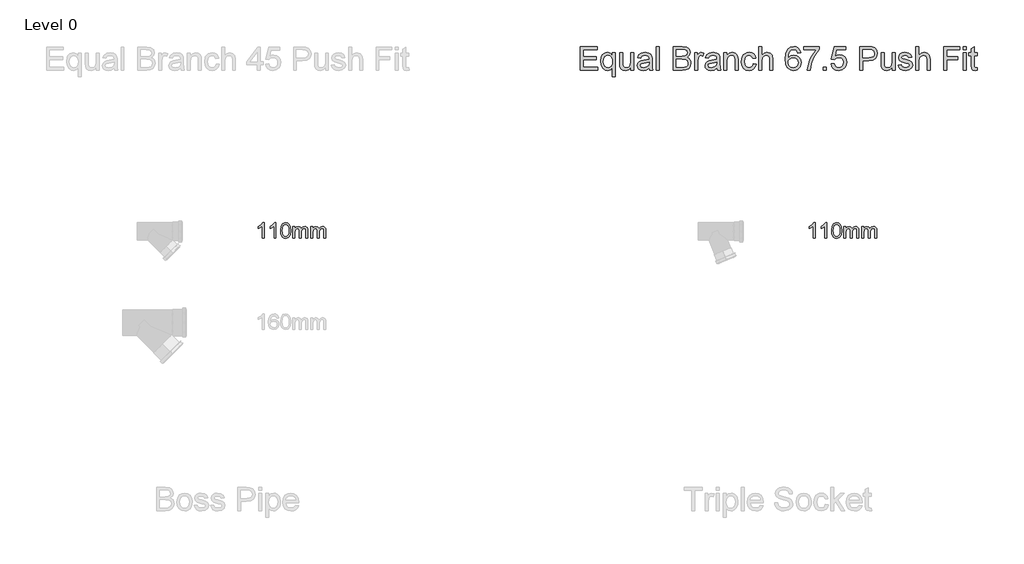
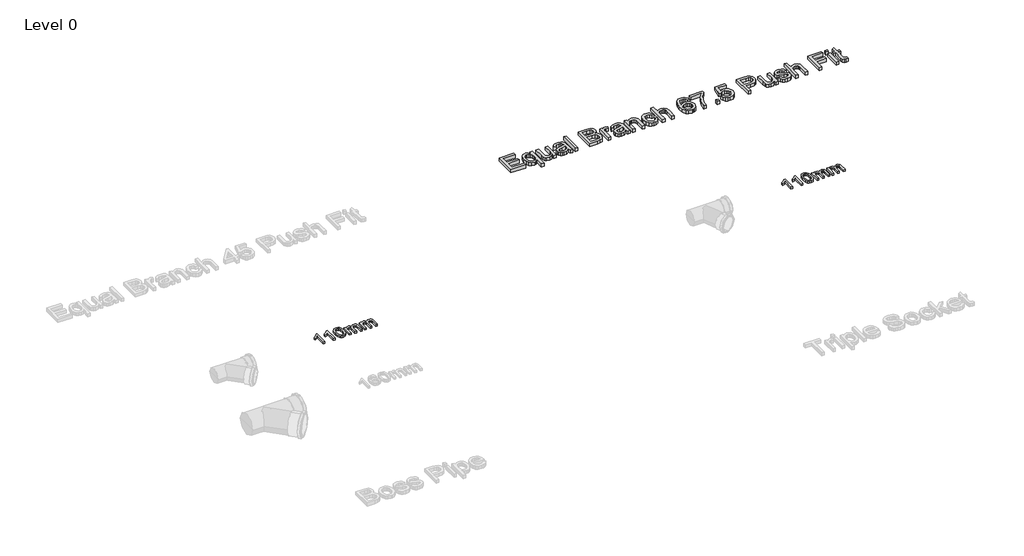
# One storey, part 15 of 15: 3 proxies.
"""IFC4 building model written with IfcOpenShell, lengths in millimetres."""

from ifc_helpers import new_model, si_unit, origin, origin_with_axes, place, context, project, spatial, polyline, outline, extrude, element, save

model = new_model("IFC4")

# Units and contexts
model_context = context("Model", 3, world=origin())
ifc_project = project(units=[si_unit("LENGTHUNIT", "METRE", prefix="MILLI")], contexts=[model_context])

# Site, building, storey
site = spatial("IfcSite", under=ifc_project)
building = spatial("IfcBuilding", under=site)
storey = spatial("IfcBuildingStorey", under=building, Name="Level 0", Elevation=0.0)

# Proxies
placement = place(None, origin())
element("IfcBuildingElementProxy", 1, Name="100mm Arial", ObjectType="100mm Arial", at=placement, inside=storey, context=model_context, shape_type="SweptSolid", body=[
    extrude(outline(polyline([(208.2706812, 8237.7167304), (195.9629889, 8237.7167304), (195.9629889, 8314.4474996), (184.3043351, 8306.1422111), (171.3476043, 8299.9282688), (171.3476043, 8311.5628842), (189.3884697, 8323.0773073), (200.3379889, 8336.1782688), (208.2706812, 8336.1782688), (208.2706812, 8237.7167304)])), origin_with_axes(), (0.0, 0.0, 1.0), 15.0),
    extrude(outline(polyline([(283.6552966, 8237.7167304), (271.3476043, 8237.7167304), (271.3476043, 8314.4474996), (259.6889505, 8306.1422111), (246.7322197, 8299.9282688), (246.7322197, 8311.5628842), (264.7730851, 8323.0773073), (275.7226043, 8336.1782688), (283.6552966, 8336.1782688), (283.6552966, 8237.7167304)])), origin_with_axes(), (0.0, 0.0, 1.0), 15.0),
    extrude(outline(polyline([(312.8860659, 8286.1542304), (316.5038543, 8314.4835573), (327.2490466, 8330.8176919), (345.1937582, 8336.1782688), (359.5687582, 8333.0051919), (369.4966428, 8323.8585573), (375.2658736, 8309.2912496), (377.5014505, 8286.1542304), (373.9197197, 8257.9450958), (363.2105851, 8241.5749035), (345.1937582, 8236.1782688), (332.4052966, 8238.5220188), (322.6937582, 8245.5532688), (315.3379889, 8262.2059131), (312.8860659, 8286.1542304)]), holes=[polyline([(325.1937582, 8286.1782688), (326.6360659, 8266.8182929), (330.9629889, 8255.613365), (337.4052966, 8250.2678121), (345.1937582, 8248.4859611), (352.9822197, 8250.2738217), (359.4245274, 8255.6374035), (363.7514505, 8266.848341), (365.1937582, 8286.1782688), (363.7995274, 8305.1025477), (359.6168351, 8316.394615), (353.1865466, 8322.0015861), (345.0495274, 8323.8705765), (337.3452005, 8322.2239419), (331.1552966, 8317.2840381), (326.6841428, 8305.2888458), (325.1937582, 8286.1782688)])]), origin_with_axes(), (0.0, 0.0, 1.0), 15.0),
    extrude(outline(polyline([(391.3476043, 8237.7167304), (391.3476043, 8310.0244227), (403.6552966, 8310.0244227), (403.6552966, 8298.1253842), (412.1168351, 8307.8729804), (424.1601043, 8311.5628842), (436.4918351, 8307.800865), (443.2706812, 8297.2599996), (452.8740466, 8307.9871631), (465.0014505, 8311.5628842), (474.2532534, 8310.0755044), (481.0952005, 8305.613365), (485.3229649, 8298.0562736), (486.7322197, 8287.2840381), (486.7322197, 8237.7167304), (474.4245274, 8237.7167304), (474.4245274, 8281.9955765), (473.2827005, 8292.2720188), (469.1480851, 8297.332115), (462.1168351, 8299.2551919), (450.0134697, 8294.3273073), (445.1937582, 8278.5340381), (445.1937582, 8237.7167304), (432.8860659, 8237.7167304), (432.8860659, 8283.3657688), (430.0375082, 8295.2888458), (420.6985659, 8299.2551919), (411.5879889, 8296.6109611), (405.5302966, 8288.8705765), (403.6552966, 8274.1830765), (403.6552966, 8237.7167304), (391.3476043, 8237.7167304)])), origin_with_axes(), (0.0, 0.0, 1.0), 15.0),
    extrude(outline(polyline([(505.1937582, 8237.7167304), (505.1937582, 8310.0244227), (517.5014505, 8310.0244227), (517.5014505, 8298.1253842), (525.9629889, 8307.8729804), (538.0062582, 8311.5628842), (550.3379889, 8307.800865), (557.1168351, 8297.2599996), (566.7202005, 8307.9871631), (578.8476043, 8311.5628842), (588.0994072, 8310.0755044), (594.9413543, 8305.613365), (599.1691187, 8298.0562736), (600.5783736, 8287.2840381), (600.5783736, 8237.7167304), (588.2706812, 8237.7167304), (588.2706812, 8281.9955765), (587.1288543, 8292.2720188), (582.9942389, 8297.332115), (575.9629889, 8299.2551919), (563.8596236, 8294.3273073), (559.039912, 8278.5340381), (559.039912, 8237.7167304), (546.7322197, 8237.7167304), (546.7322197, 8283.3657688), (543.883662, 8295.2888458), (534.5447197, 8299.2551919), (525.4341428, 8296.6109611), (519.3764505, 8288.8705765), (517.5014505, 8274.1830765), (517.5014505, 8237.7167304), (505.1937582, 8237.7167304)])), origin_with_axes(), (0.0, 0.0, 1.0), 15.0),
])
element("IfcBuildingElementProxy", 2, Name="100mm Arial", ObjectType="100mm Arial", at=placement, inside=storey, context=model_context, shape_type="SweptSolid", body=[
    extrude(outline(polyline([(3708.2706812, 8237.7167304), (3695.9629889, 8237.7167304), (3695.9629889, 8314.4474996), (3684.3043351, 8306.1422111), (3671.3476043, 8299.9282688), (3671.3476043, 8311.5628842), (3689.3884697, 8323.0773073), (3700.3379889, 8336.1782688), (3708.2706812, 8336.1782688), (3708.2706812, 8237.7167304)])), origin_with_axes(), (0.0, 0.0, 1.0), 15.0),
    extrude(outline(polyline([(3783.6552966, 8237.7167304), (3771.3476043, 8237.7167304), (3771.3476043, 8314.4474996), (3759.6889505, 8306.1422111), (3746.7322197, 8299.9282688), (3746.7322197, 8311.5628842), (3764.7730851, 8323.0773073), (3775.7226043, 8336.1782688), (3783.6552966, 8336.1782688), (3783.6552966, 8237.7167304)])), origin_with_axes(), (0.0, 0.0, 1.0), 15.0),
    extrude(outline(polyline([(3812.8860659, 8286.1542304), (3816.5038543, 8314.4835573), (3827.2490466, 8330.8176919), (3845.1937582, 8336.1782688), (3859.5687582, 8333.0051919), (3869.4966428, 8323.8585573), (3875.2658736, 8309.2912496), (3877.5014505, 8286.1542304), (3873.9197197, 8257.9450958), (3863.2105851, 8241.5749035), (3845.1937582, 8236.1782688), (3832.4052966, 8238.5220188), (3822.6937582, 8245.5532688), (3815.3379889, 8262.2059131), (3812.8860659, 8286.1542304)]), holes=[polyline([(3825.1937582, 8286.1782688), (3826.6360659, 8266.8182929), (3830.9629889, 8255.613365), (3837.4052966, 8250.2678121), (3845.1937582, 8248.4859611), (3852.9822197, 8250.2738217), (3859.4245274, 8255.6374035), (3863.7514505, 8266.848341), (3865.1937582, 8286.1782688), (3863.7995274, 8305.1025477), (3859.6168351, 8316.394615), (3853.1865466, 8322.0015861), (3845.0495274, 8323.8705765), (3837.3452005, 8322.2239419), (3831.1552966, 8317.2840381), (3826.6841428, 8305.2888458), (3825.1937582, 8286.1782688)])]), origin_with_axes(), (0.0, 0.0, 1.0), 15.0),
    extrude(outline(polyline([(3891.3476043, 8237.7167304), (3891.3476043, 8310.0244227), (3903.6552966, 8310.0244227), (3903.6552966, 8298.1253842), (3912.1168351, 8307.8729804), (3924.1601043, 8311.5628842), (3936.4918351, 8307.800865), (3943.2706812, 8297.2599996), (3952.8740466, 8307.9871631), (3965.0014505, 8311.5628842), (3974.2532534, 8310.0755044), (3981.0952005, 8305.613365), (3985.3229649, 8298.0562736), (3986.7322197, 8287.2840381), (3986.7322197, 8237.7167304), (3974.4245274, 8237.7167304), (3974.4245274, 8281.9955765), (3973.2827005, 8292.2720188), (3969.1480851, 8297.332115), (3962.1168351, 8299.2551919), (3950.0134697, 8294.3273073), (3945.1937582, 8278.5340381), (3945.1937582, 8237.7167304), (3932.8860659, 8237.7167304), (3932.8860659, 8283.3657688), (3930.0375082, 8295.2888458), (3920.6985659, 8299.2551919), (3911.5879889, 8296.6109611), (3905.5302966, 8288.8705765), (3903.6552966, 8274.1830765), (3903.6552966, 8237.7167304), (3891.3476043, 8237.7167304)])), origin_with_axes(), (0.0, 0.0, 1.0), 15.0),
    extrude(outline(polyline([(4005.1937582, 8237.7167304), (4005.1937582, 8310.0244227), (4017.5014505, 8310.0244227), (4017.5014505, 8298.1253842), (4025.9629889, 8307.8729804), (4038.0062582, 8311.5628842), (4050.3379889, 8307.800865), (4057.1168351, 8297.2599996), (4066.7202005, 8307.9871631), (4078.8476043, 8311.5628842), (4088.0994072, 8310.0755044), (4094.9413543, 8305.613365), (4099.1691187, 8298.0562736), (4100.5783736, 8287.2840381), (4100.5783736, 8237.7167304), (4088.2706812, 8237.7167304), (4088.2706812, 8281.9955765), (4087.1288543, 8292.2720188), (4082.9942389, 8297.332115), (4075.9629889, 8299.2551919), (4063.8596236, 8294.3273073), (4059.039912, 8278.5340381), (4059.039912, 8237.7167304), (4046.7322197, 8237.7167304), (4046.7322197, 8283.3657688), (4043.883662, 8295.2888458), (4034.5447197, 8299.2551919), (4025.4341428, 8296.6109611), (4019.3764505, 8288.8705765), (4017.5014505, 8274.1830765), (4017.5014505, 8237.7167304), (4005.1937582, 8237.7167304)])), origin_with_axes(), (0.0, 0.0, 1.0), 15.0),
])
element("IfcBuildingElementProxy", 3, Name="150mm Arial", ObjectType="150mm Arial", at=placement, inside=storey, context=model_context, shape_type="SweptSolid", body=[
    extrude(outline(polyline([(2216.0144869, 9305.2145219), (2216.0144869, 9455.8989871), (2324.3189462, 9455.8989871), (2324.3189462, 9437.063429), (2234.850045, 9437.063429), (2234.850045, 9392.3289784), (2319.6100567, 9392.3289784), (2319.6100567, 9373.4934202), (2234.850045, 9373.4934202), (2234.850045, 9324.0500801), (2326.673391, 9324.0500801), (2326.673391, 9305.2145219), (2216.0144869, 9305.2145219)])), origin_with_axes(), (0.0, 0.0, 1.0), 25.0),
    extrude(outline(polyline([(2420.8511818, 9262.8345161), (2420.8511818, 9320.2976837), (2408.8950169, 9307.8264841), (2392.5610563, 9302.8600771), (2374.6544002, 9306.7826189), (2359.4148886, 9318.5502442), (2348.985434, 9337.1512776), (2345.5089492, 9361.5740436), (2351.0271791, 9391.4092734), (2357.7870108, 9403.0159503), (2367.0300459, 9411.4220539), (2378.0205205, 9416.5264166), (2390.0226706, 9418.2278708), (2407.5338536, 9412.9487642), (2420.8511818, 9397.1114443), (2420.8511818, 9415.8734261), (2439.6867399, 9415.8734261), (2439.6867399, 9262.8345161), (2420.8511818, 9262.8345161)]), holes=[polyline([(2364.3445073, 9360.543974), (2366.4644273, 9343.5478258), (2372.8241873, 9331.40772), (2382.1453974, 9324.1236565), (2393.1496675, 9321.6956353), (2403.6940852, 9324.0040948), (2412.6658074, 9330.9294734), (2418.8048382, 9342.5729385), (2420.8511818, 9359.0356578), (2418.6944736, 9376.6342128), (2412.224349, 9389.2571637), (2402.8479566, 9396.8585254), (2391.9724452, 9399.3923127), (2381.2992688, 9397.0332694), (2372.3827289, 9389.9561395), (2366.3540627, 9377.8850115), (2364.3445073, 9360.543974)])]), origin_with_axes(), (0.0, 0.0, 1.0), 25.0),
    extrude(outline(polyline([(2538.5734202, 9305.2145219), (2538.5734202, 9324.2340211), (2523.8213522, 9308.2035631), (2504.5811239, 9302.8600771), (2486.8676058, 9306.6124735), (2474.6539236, 9316.0302526), (2469.0437231, 9329.8994038), (2467.9400772, 9347.4105868), (2467.9400772, 9415.8734261), (2486.7756353, 9415.8734261), (2486.7756353, 9356.2765428), (2487.9160695, 9337.0731027), (2495.3656799, 9325.7975195), (2509.400378, 9321.6956353), (2525.1273333, 9325.88949), (2535.5199997, 9337.312226), (2538.5734202, 9358.2998938), (2538.5734202, 9415.8734261), (2557.4089784, 9415.8734261), (2557.4089784, 9305.2145219), (2538.5734202, 9305.2145219)])), origin_with_axes(), (0.0, 0.0, 1.0), 25.0),
    extrude(outline(polyline([(2653.9412139, 9319.3411905), (2635.6758729, 9306.5756853), (2615.4975454, 9302.8600771), (2599.7567946, 9305.0949603), (2588.1455191, 9311.7996096), (2580.9856158, 9321.9807438), (2578.5989813, 9334.6450815), (2582.2042249, 9349.5443023), (2591.6771862, 9360.360033), (2604.8657558, 9366.5404505), (2621.1629282, 9369.3731419), (2653.8308493, 9375.847865), (2653.9412139, 9380.0417197), (2652.6444299, 9388.4478233), (2648.7540778, 9393.9476592), (2640.0536686, 9398.0311493), (2627.9319569, 9399.3923127), (2608.8756695, 9395.768675), (2599.7889842, 9382.9111993), (2580.9534261, 9385.2656441), (2589.1020123, 9403.6597438), (2605.5095493, 9414.4386863), (2630.359978, 9418.2278708), (2653.1870558, 9414.8801447), (2666.0813198, 9406.4740411), (2671.8570671, 9393.6901418), (2672.7767721, 9377.2090284), (2672.7767721, 9353.7749453), (2673.7332653, 9321.0518418), (2677.4856616, 9305.2145219), (2658.6501035, 9305.2145219), (2653.9412139, 9319.3411905)]), holes=[polyline([(2653.9412139, 9357.0123068), (2623.5541611, 9351.2365595), (2607.3489592, 9348.183139), (2600.0097134, 9343.216732), (2597.4345395, 9335.9694567), (2603.0447399, 9325.7791254), (2619.5074592, 9321.6956353), (2638.5637465, 9326.2021897), (2650.8510052, 9337.1098909), (2653.8308493, 9351.6780179), (2653.9412139, 9357.0123068)])]), origin_with_axes(), (0.0, 0.0, 1.0), 25.0),
    extrude(outline(polyline([(2698.6756645, 9305.2145219), (2698.6756645, 9455.8989871), (2717.5112227, 9455.8989871), (2717.5112227, 9305.2145219), (2698.6756645, 9305.2145219)])), origin_with_axes(), (0.0, 0.0, 1.0), 25.0),
    extrude(outline(polyline([(2806.9801239, 9305.2145219), (2806.9801239, 9455.8989871), (2864.4800798, 9455.8989871), (2892.6414465, 9451.4660091), (2902.1052108, 9445.8420131), (2909.2697127, 9437.8359812), (2915.2845833, 9418.5589646), (2910.2262059, 9400.9558112), (2894.940709, 9387.6200888), (2905.6138853, 9382.0466766), (2913.5003556, 9373.5669966), (2918.3701935, 9362.7420689), (2919.9934728, 9350.1329135), (2915.5604948, 9329.8810097), (2904.5792172, 9315.4600355), (2888.1900744, 9307.80809), (2864.0386214, 9305.2145219), (2806.9801239, 9305.2145219)]), holes=[polyline([(2825.8156821, 9324.0500801), (2864.4432916, 9324.0500801), (2878.4228074, 9324.7858441), (2890.2502135, 9328.8877283), (2898.0861, 9337.2570437), (2901.1579147, 9349.9489725), (2897.5526711, 9364.5906759), (2885.8724178, 9373.3278733), (2862.6038816, 9375.847865), (2825.8156821, 9375.847865), (2825.8156821, 9324.0500801)]), polyline([(2825.8156821, 9394.6834231), (2860.2126486, 9394.6834231), (2880.2990056, 9396.3021039), (2892.3839291, 9403.2734677), (2896.4490251, 9415.5423323), (2892.6598406, 9427.8295909), (2881.8073217, 9435.0952603), (2857.6006865, 9437.063429), (2825.8156821, 9437.063429), (2825.8156821, 9394.6834231)])]), origin_with_axes(), (0.0, 0.0, 1.0), 25.0),
    extrude(outline(polyline([(2943.5379205, 9305.2145219), (2943.5379205, 9415.8734261), (2960.0190339, 9415.8734261), (2960.0190339, 9399.5026773), (2971.7176814, 9414.5858391), (2983.4899052, 9418.2278708), (3002.3990398, 9412.4153353), (2996.1082576, 9395.5295517), (2982.8645058, 9399.3923127), (2972.214322, 9395.6767045), (2965.4268992, 9385.3760087), (2962.3734787, 9363.3766654), (2962.3734787, 9305.2145219), (2943.5379205, 9305.2145219)])), origin_with_axes(), (0.0, 0.0, 1.0), 25.0),
    extrude(outline(polyline([(3084.8046067, 9319.3411905), (3066.5392656, 9306.5756853), (3046.3609382, 9302.8600771), (3030.6201873, 9305.0949603), (3019.0089118, 9311.7996096), (3011.8490085, 9321.9807438), (3009.4623741, 9334.6450815), (3013.0676176, 9349.5443023), (3022.540579, 9360.360033), (3035.7291485, 9366.5404505), (3052.0263209, 9369.3731419), (3084.6942421, 9375.847865), (3084.8046067, 9380.0417197), (3083.5078226, 9388.4478233), (3079.6174705, 9393.9476592), (3070.9170614, 9398.0311493), (3058.7953496, 9399.3923127), (3039.7390623, 9395.768675), (3030.652377, 9382.9111993), (3011.8168188, 9385.2656441), (3019.965405, 9403.6597438), (3036.372942, 9414.4386863), (3061.2233708, 9418.2278708), (3084.0504486, 9414.8801447), (3096.9447125, 9406.4740411), (3102.7204598, 9393.6901418), (3103.6401648, 9377.2090284), (3103.6401648, 9353.7749453), (3104.596658, 9321.0518418), (3108.3490544, 9305.2145219), (3089.5134962, 9305.2145219), (3084.8046067, 9319.3411905)]), holes=[polyline([(3084.8046067, 9357.0123068), (3054.4175539, 9351.2365595), (3038.212352, 9348.183139), (3030.8731062, 9343.216732), (3028.2979322, 9335.9694567), (3033.9081326, 9325.7791254), (3050.3708519, 9321.6956353), (3069.4271393, 9326.2021897), (3081.7143979, 9337.1098909), (3084.6942421, 9351.6780179), (3084.8046067, 9357.0123068)])]), origin_with_axes(), (0.0, 0.0, 1.0), 25.0),
    extrude(outline(polyline([(3129.5390573, 9305.2145219), (3129.5390573, 9415.8734261), (3148.3746154, 9415.8734261), (3148.3746154, 9400.4223823), (3162.7771956, 9413.7764987), (3182.4404882, 9418.2278708), (3200.2275827, 9414.6410214), (3212.3676885, 9405.2232423), (3218.0146771, 9391.3724852), (3219.0079585, 9373.1623264), (3219.0079585, 9305.2145219), (3200.1724004, 9305.2145219), (3200.1724004, 9370.6239407), (3198.0018966, 9387.288995), (3190.331557, 9396.0997688), (3177.4005049, 9399.3923127), (3166.3686435, 9397.5437057), (3156.96466, 9391.9978846), (3150.5221266, 9381.2833215), (3148.3746154, 9363.9284883), (3148.3746154, 9305.2145219), (3129.5390573, 9305.2145219)])), origin_with_axes(), (0.0, 0.0, 1.0), 25.0),
    extrude(outline(polyline([(3315.540194, 9345.240083), (3334.3757522, 9342.8856382), (3329.1242367, 9326.1332119), (3319.2558022, 9313.4734727), (3305.6993507, 9305.513426), (3289.3837842, 9302.8600771), (3269.348011, 9306.5618897), (3253.6808366, 9317.6673275), (3243.5686802, 9335.6889467), (3240.1979614, 9360.1393038), (3241.6372997, 9376.9009272), (3245.9553147, 9391.4276675), (3253.2209841, 9403.1585046), (3263.5032858, 9411.5324185), (3275.80434, 9416.5540078), (3289.1262668, 9418.2278708), (3305.0417616, 9415.9286084), (3317.7658801, 9409.030821), (3326.8939521, 9397.9023906), (3332.0213074, 9382.9111993), (3313.1857493, 9380.5567545), (3304.4485519, 9394.665029), (3289.2734196, 9399.3923127), (3277.1011241, 9397.0654591), (3267.4396232, 9390.0848982), (3261.1350455, 9378.0735511), (3259.0335196, 9360.6543386), (3261.0890602, 9343.0006013), (3267.2556822, 9330.9478675), (3276.7424391, 9324.0086933), (3288.7583848, 9321.6956353), (3298.5118562, 9323.1395721), (3306.5086911, 9327.4713826), (3312.3258251, 9334.8014314), (3315.540194, 9345.240083)])), origin_with_axes(), (0.0, 0.0, 1.0), 25.0),
    extrude(outline(polyline([(3350.8568656, 9305.2145219), (3350.8568656, 9455.8989871), (3369.6924237, 9455.8989871), (3369.6924237, 9400.4959587), (3384.3801124, 9413.7948928), (3402.4707095, 9418.2278708), (3423.6239242, 9413.3902226), (3436.4630059, 9400.0177121), (3440.3257668, 9375.2592538), (3440.3257668, 9305.2145219), (3421.4902087, 9305.2145219), (3421.4902087, 9373.3094792), (3419.9910895, 9385.1000972), (3415.4937321, 9393.175107), (3408.2464568, 9397.8380113), (3398.497584, 9399.3923127), (3383.0649343, 9395.1984579), (3372.7642384, 9383.8309043), (3369.6924237, 9364.0020647), (3369.6924237, 9305.2145219), (3350.8568656, 9305.2145219)])), origin_with_axes(), (0.0, 0.0, 1.0), 25.0),
    extrude(outline(polyline([(3616.9091245, 9415.8734261), (3598.0735663, 9413.5189813), (3590.9366556, 9429.2275425), (3582.3925963, 9435.1044574), (3572.0643093, 9437.063429), (3555.0681611, 9432.5016922), (3542.2106854, 9415.3767854), (3538.3065377, 9401.3466858), (3536.8580023, 9381.8075533), (3553.4678744, 9396.8355328), (3574.0508721, 9401.7467575), (3591.4516904, 9398.3898342), (3606.0566056, 9388.3190646), (3615.9618284, 9372.9324002), (3619.2635693, 9353.6277925), (3617.7092678, 9340.1403188), (3613.0463635, 9327.6369295), (3605.6611325, 9317.032731), (3595.9398508, 9309.2428298), (3584.3239768, 9304.4557653), (3571.2549689, 9302.8600771), (3549.8856235, 9307.0907201), (3532.8664827, 9319.7826489), (3521.7334538, 9342.1866624), (3518.0224442, 9375.5535594), (3522.1427225, 9413.0683259), (3534.5035576, 9438.718898), (3551.3801441, 9451.6039648), (3573.2415317, 9455.8989871), (3589.7686303, 9453.2410397), (3603.0031851, 9445.2671975), (3612.2738114, 9432.6028598), (3616.9091245, 9415.8734261)]), holes=[polyline([(3536.8580023, 9353.9220981), (3541.217404, 9337.6065316), (3552.8056868, 9325.7607313), (3569.7834409, 9321.6956353), (3582.2132538, 9323.8017597), (3591.9851193, 9330.120133), (3598.3172882, 9340.0529469), (3600.4280111, 9353.0023931), (3598.3448793, 9365.432206), (3592.0954839, 9374.9097659), (3582.1580715, 9380.910841), (3569.0108887, 9382.9111993), (3556.5994699, 9380.910841), (3546.2205991, 9374.9097659), (3539.1986515, 9365.6621323), (3536.8580023, 9353.9220981)])]), origin_with_axes(), (0.0, 0.0, 1.0), 25.0),
    extrude(outline(polyline([(3635.7446827, 9434.7089842), (3635.7446827, 9453.5445424), (3734.631363, 9453.5445424), (3734.631363, 9438.3142278), (3706.5803608, 9397.792026), (3694.2701096, 9372.3299934), (3685.1144464, 9346.159788), (3678.1246885, 9305.2145219), (3659.2891303, 9305.2145219), (3666.7755289, 9347.7048924), (3675.4897337, 9372.1644465), (3687.3217384, 9395.7318868), (3715.7958048, 9434.7089842), (3635.7446827, 9434.7089842)])), origin_with_axes(), (0.0, 0.0, 1.0), 25.0),
    extrude(outline(polyline([(3760.5302554, 9305.2145219), (3760.5302554, 9324.0500801), (3779.3658136, 9324.0500801), (3779.3658136, 9305.2145219), (3760.5302554, 9305.2145219)])), origin_with_axes(), (0.0, 0.0, 1.0), 25.0),
    extrude(outline(polyline([(3809.9735956, 9345.240083), (3828.8091537, 9347.5945278), (3832.2672445, 9336.2867549), (3838.3005092, 9328.1887525), (3846.8813567, 9323.3189146), (3857.9821959, 9321.6956353), (3871.4834652, 9323.953511), (3881.60022, 9330.7271383), (3887.9185933, 9341.2347678), (3890.0247177, 9354.6946503), (3888.0519505, 9367.368185), (3882.1336489, 9377.0618756), (3872.2238277, 9383.2147019), (3858.2765015, 9385.2656441), (3841.7402058, 9381.9914943), (3831.1635985, 9373.4934202), (3812.3280403, 9375.847865), (3828.8091537, 9453.5445424), (3901.7969416, 9453.5445424), (3901.7969416, 9434.7089842), (3844.0394683, 9434.7089842), (3835.9828526, 9393.2118952), (3849.4381366, 9401.3788755), (3863.5372141, 9404.1012022), (3881.135769, 9400.7258849), (3895.7452827, 9390.599933), (3905.5815276, 9375.1672833), (3908.8602759, 9355.8718727), (3905.9080229, 9337.0363145), (3897.0512638, 9320.9230831), (3880.0919038, 9307.3758286), (3857.9086195, 9302.8600771), (3839.4087537, 9305.7617464), (3824.6704813, 9314.4667541), (3814.567522, 9327.9634248), (3809.9735956, 9345.240083)])), origin_with_axes(), (0.0, 0.0, 1.0), 25.0),
    extrude(outline(polyline([(3991.2658428, 9305.2145219), (3991.2658428, 9455.8989871), (4047.1103297, 9455.8989871), (4069.6247078, 9454.4642474), (4087.926837, 9447.4193072), (4099.7910314, 9432.8511801), (4104.2791917, 9412.3049707), (4101.2487638, 9394.5454674), (4092.15748, 9379.7474141), (4075.1567333, 9369.759418), (4048.3979166, 9366.4300859), (4010.1014009, 9366.4300859), (4010.1014009, 9305.2145219), (3991.2658428, 9305.2145219)]), holes=[polyline([(4010.1014009, 9385.2656441), (4049.5015626, 9385.2656441), (4066.2034052, 9386.9946894), (4077.2398651, 9392.1818256), (4083.3926914, 9400.5051557), (4085.4436336, 9411.6427831), (4080.6059853, 9427.2409797), (4067.8956624, 9435.775842), (4049.0601042, 9437.063429), (4010.1014009, 9437.063429), (4010.1014009, 9385.2656441)])]), origin_with_axes(), (0.0, 0.0, 1.0), 25.0),
    extrude(outline(polyline([(4198.4569825, 9305.2145219), (4198.4569825, 9324.2340211), (4183.7049145, 9308.2035631), (4164.4646861, 9302.8600771), (4146.7511681, 9306.6124735), (4134.5374858, 9316.0302526), (4128.9272854, 9329.8994038), (4127.8236394, 9347.4105868), (4127.8236394, 9415.8734261), (4146.6591976, 9415.8734261), (4146.6591976, 9356.2765428), (4147.7996317, 9337.0731027), (4155.2492421, 9325.7975195), (4169.2839403, 9321.6956353), (4185.0108955, 9325.88949), (4195.4035619, 9337.312226), (4198.4569825, 9358.2998938), (4198.4569825, 9415.8734261), (4217.2925406, 9415.8734261), (4217.2925406, 9305.2145219), (4198.4569825, 9305.2145219)])), origin_with_axes(), (0.0, 0.0, 1.0), 25.0),
    extrude(outline(polyline([(4236.1280988, 9338.1767487), (4254.9636569, 9340.5311935), (4257.934304, 9332.4745778), (4263.6824602, 9326.5516776), (4283.6584526, 9321.6956353), (4302.8618927, 9326.1470074), (4309.1158866, 9336.5948561), (4307.5431911, 9341.3957161), (4302.8251045, 9345.056142), (4283.4377234, 9350.4272191), (4255.0740215, 9359.6426631), (4242.6947924, 9370.4032115), (4238.4825435, 9385.5967379), (4241.8670579, 9399.631436), (4251.100896, 9410.3551961), (4263.0754549, 9415.9286084), (4279.2806568, 9418.2278708), (4302.1997051, 9414.5306568), (4316.7678321, 9404.5242665), (4323.2425552, 9387.6200888), (4304.4069971, 9385.2656441), (4297.3252687, 9395.6583104), (4280.7521848, 9399.3923127), (4262.725967, 9395.8238573), (4257.3181017, 9387.5097242), (4259.5621819, 9382.0282825), (4266.588728, 9377.871216), (4282.812324, 9373.8613022), (4310.4586559, 9364.9953461), (4323.2977375, 9354.9521677), (4327.9514448, 9338.5814189), (4322.4883971, 9320.5552011), (4306.7246537, 9307.4769962), (4283.4009352, 9302.8600771), (4264.4090272, 9305.0857632), (4250.549073, 9311.7628214), (4241.2968408, 9322.8176754), (4236.1280988, 9338.1767487)])), origin_with_axes(), (0.0, 0.0, 1.0), 25.0),
    extrude(outline(polyline([(4349.1414477, 9305.2145219), (4349.1414477, 9455.8989871), (4367.9770059, 9455.8989871), (4367.9770059, 9400.4959587), (4382.6646945, 9413.7948928), (4400.7552916, 9418.2278708), (4421.9085063, 9413.3902226), (4434.747588, 9400.0177121), (4438.6103489, 9375.2592538), (4438.6103489, 9305.2145219), (4419.7747908, 9305.2145219), (4419.7747908, 9373.3094792), (4418.2756716, 9385.1000972), (4413.7783142, 9393.175107), (4406.5310389, 9397.8380113), (4396.7821661, 9399.3923127), (4381.3495164, 9395.1984579), (4371.0488205, 9383.8309043), (4367.9770059, 9364.0020647), (4367.9770059, 9305.2145219), (4349.1414477, 9305.2145219)])), origin_with_axes(), (0.0, 0.0, 1.0), 25.0),
    extrude(outline(polyline([(4525.7248054, 9305.2145219), (4525.7248054, 9455.8989871), (4626.9659305, 9455.8989871), (4626.9659305, 9437.063429), (4544.5603635, 9437.063429), (4544.5603635, 9392.3289784), (4615.1937066, 9392.3289784), (4615.1937066, 9373.4934202), (4544.5603635, 9373.4934202), (4544.5603635, 9305.2145219), (4525.7248054, 9305.2145219)])), origin_with_axes(), (0.0, 0.0, 1.0), 25.0),
    extrude(outline(polyline([(4650.5103781, 9437.063429), (4650.5103781, 9455.8989871), (4669.3459363, 9455.8989871), (4669.3459363, 9437.063429), (4650.5103781, 9437.063429)])), origin_with_axes(), (0.0, 0.0, 1.0), 25.0),
    extrude(outline(polyline([(4650.5103781, 9305.2145219), (4650.5103781, 9415.8734261), (4669.3459363, 9415.8734261), (4669.3459363, 9305.2145219), (4650.5103781, 9305.2145219)])), origin_with_axes(), (0.0, 0.0, 1.0), 25.0),
    extrude(outline(polyline([(4737.6248346, 9320.9230831), (4739.9792794, 9304.6626989), (4725.889399, 9302.8600771), (4710.1072614, 9305.9870741), (4702.2345867, 9314.1908426), (4699.9537183, 9335.5647865), (4699.9537183, 9397.0378679), (4685.8270497, 9397.0378679), (4685.8270497, 9415.8734261), (4699.9537183, 9415.8734261), (4699.9537183, 9442.7655999), (4718.7892765, 9453.838848), (4718.7892765, 9415.8734261), (4737.6248346, 9415.8734261), (4737.6248346, 9397.0378679), (4718.7892765, 9397.0378679), (4718.7892765, 9336.1166095), (4719.7825578, 9326.4045248), (4723.0015253, 9322.9648282), (4729.4210661, 9321.6956353), (4737.6248346, 9320.9230831)])), origin_with_axes(), (0.0, 0.0, 1.0), 25.0),
])

save(model, "model.ifc")
